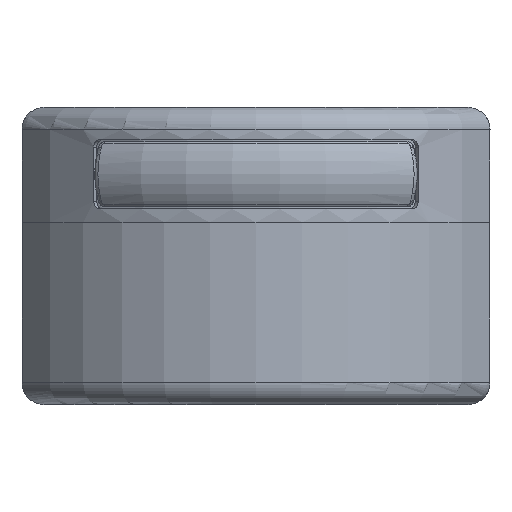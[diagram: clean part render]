
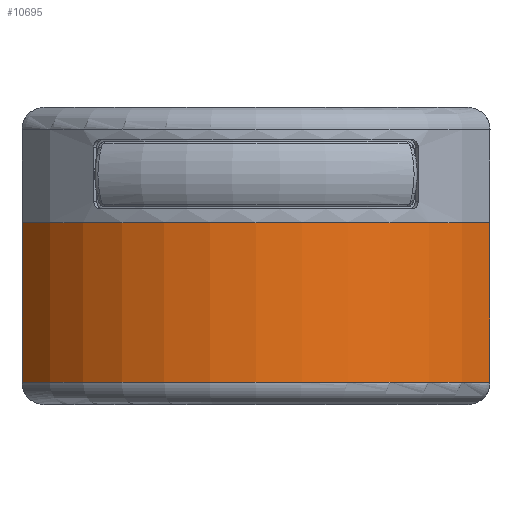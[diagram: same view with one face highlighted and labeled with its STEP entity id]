
A CAD part, front view. The second image highlights one B-rep face of the part: STEP entity #10695.
In plain terms, the highlighted cylindrical face has radius 37 mm (diameter 74 mm), a partial arc.
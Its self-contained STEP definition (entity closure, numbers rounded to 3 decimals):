
#135 = EDGE_CURVE ( 'NONE', #10835, #4993, #23657, .T. ) ;
#1342 = CYLINDRICAL_SURFACE ( 'NONE', #22160, 37. ) ;
#2378 = CIRCLE ( 'NONE', #9210, 37. ) ;
#4078 = ORIENTED_EDGE ( 'NONE', *, *, #135, .T. ) ;
#4439 = VERTEX_POINT ( 'NONE', #12275 ) ;
#4653 = LINE ( 'NONE', #17434, #14773 ) ;
#4993 = VERTEX_POINT ( 'NONE', #9983 ) ;
#5942 = CARTESIAN_POINT ( 'NONE',  ( 31.5, -69.9, 20. ) ) ;
#5974 = DIRECTION ( 'NONE',  ( 0., 0., -1. ) ) ;
#8621 = ORIENTED_EDGE ( 'NONE', *, *, #18928, .F. ) ;
#8676 = FACE_OUTER_BOUND ( 'NONE', #23176, .T. ) ;
#8705 = CARTESIAN_POINT ( 'NONE',  ( -31.5, -69.9, 4.5 ) ) ;
#9210 = AXIS2_PLACEMENT_3D ( 'NONE', #20811, #9416, #22714 ) ;
#9416 = DIRECTION ( 'NONE',  ( 0., 0., 1. ) ) ;
#9449 = ORIENTED_EDGE ( 'NONE', *, *, #23936, .T. ) ;
#9814 = CARTESIAN_POINT ( 'NONE',  ( -31.5, -69.9, -17. ) ) ;
#9983 = CARTESIAN_POINT ( 'NONE',  ( 31.5, -69.9, -17. ) ) ;
#10695 = ADVANCED_FACE ( 'NONE', ( #8676 ), #1342, .T. ) ;
#10835 = VERTEX_POINT ( 'NONE', #9814 ) ;
#12275 = CARTESIAN_POINT ( 'NONE',  ( 31.5, -69.9, 4.5 ) ) ;
#13250 = DIRECTION ( 'NONE',  ( 0., -1., 0. ) ) ;
#13322 = VERTEX_POINT ( 'NONE', #8705 ) ;
#14773 = VECTOR ( 'NONE', #5974, 1000. ) ;
#15221 = CARTESIAN_POINT ( 'NONE',  ( 0., -50.49, -17. ) ) ;
#15789 = DIRECTION ( 'NONE',  ( 0., 1., 0. ) ) ;
#15940 = DIRECTION ( 'NONE',  ( 0., 0., 1. ) ) ;
#16337 = AXIS2_PLACEMENT_3D ( 'NONE', #15221, #15940, #15789 ) ;
#16993 = CARTESIAN_POINT ( 'NONE',  ( 0., -50.49, 20. ) ) ;
#17312 = DIRECTION ( 'NONE',  ( 0., 0., -1. ) ) ;
#17434 = CARTESIAN_POINT ( 'NONE',  ( -31.5, -69.9, 20. ) ) ;
#18351 = LINE ( 'NONE', #5942, #22816 ) ;
#18795 = EDGE_CURVE ( 'NONE', #13322, #4439, #2378, .T. ) ;
#18928 = EDGE_CURVE ( 'NONE', #4439, #4993, #18351, .T. ) ;
#20085 = ORIENTED_EDGE ( 'NONE', *, *, #18795, .F. ) ;
#20811 = CARTESIAN_POINT ( 'NONE',  ( 0., -50.49, 4.5 ) ) ;
#22160 = AXIS2_PLACEMENT_3D ( 'NONE', #16993, #22625, #13250 ) ;
#22625 = DIRECTION ( 'NONE',  ( 0., 0., -1. ) ) ;
#22714 = DIRECTION ( 'NONE',  ( 0., -1., 0. ) ) ;
#22816 = VECTOR ( 'NONE', #17312, 1000. ) ;
#23176 = EDGE_LOOP ( 'NONE', ( #8621, #20085, #9449, #4078 ) ) ;
#23657 = CIRCLE ( 'NONE', #16337, 37. ) ;
#23936 = EDGE_CURVE ( 'NONE', #13322, #10835, #4653, .T. ) ;
